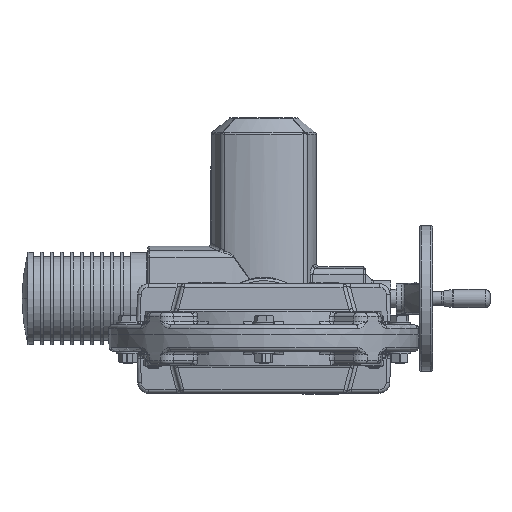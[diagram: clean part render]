
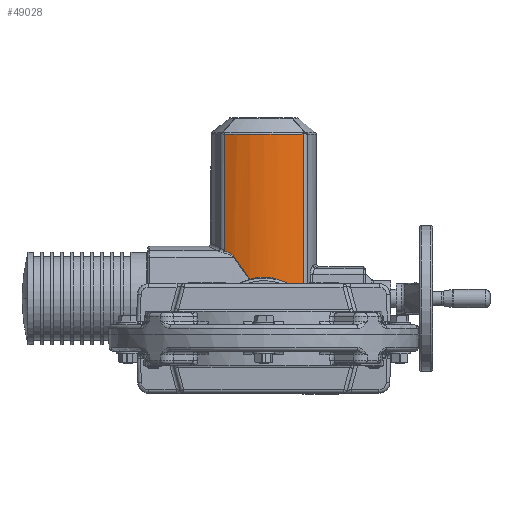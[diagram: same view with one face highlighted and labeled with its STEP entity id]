
A CAD part, front view. The second image highlights one B-rep face of the part: STEP entity #49028.
In plain terms, the highlighted cylindrical face has radius 100 mm (diameter 200 mm), a partial arc.
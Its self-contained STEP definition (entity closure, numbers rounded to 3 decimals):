
#443 = CARTESIAN_POINT ( 'NONE',  ( -41.052, 616.808, 91.582 ) ) ;
#2172 = B_SPLINE_CURVE_WITH_KNOTS ( 'NONE', 3,
 ( #109295, #119848, #57082, #130500, #67694, #4980, #78179, #15446 ),
 .UNSPECIFIED., .F., .F.,
 ( 4, 2, 2, 4 ),
 ( 0., 0.002, 0.003, 0.007 ),
 .UNSPECIFIED. ) ;
#3510 = CARTESIAN_POINT ( 'NONE',  ( -10.443, 608.52, 62.174 ) ) ;
#3958 = CARTESIAN_POINT ( 'NONE',  ( 20.562, 610.131, 58.699 ) ) ;
#4009 = EDGE_CURVE ( 'NONE', #121351, #111790, #43996, .T. ) ;
#4980 = CARTESIAN_POINT ( 'NONE',  ( 41.482, 617.005, 45.502 ) ) ;
#5095 = B_SPLINE_CURVE_WITH_KNOTS ( 'NONE', 3,
 ( #107835, #34572, #3510, #76733, #13939, #87258, #24505, #97738, #35004, #108269, #45509, #118831, #56065, #129468, #66622, #3958, #77168, #14391, #87723, #24951, #98178, #35457, #108726, #45955, #119260, #56509 ),
 .UNSPECIFIED., .F., .F.,
 ( 4, 2, 2, 2, 2, 2, 2, 2, 2, 2, 2, 2, 4 ),
 ( 0., 0.007, 0.011, 0.014, 0.021, 0.025, 0.028, 0.035, 0.039, 0.041, 0.042, 0.05, 0.057 ),
 .UNSPECIFIED. ) ;
#5405 = DIRECTION ( 'NONE',  ( 1., 0., 0. ) ) ;
#5708 = CARTESIAN_POINT ( 'NONE',  ( -14.967, 609.126, 60.881 ) ) ;
#8501 = VERTEX_POINT ( 'NONE', #42742 ) ;
#9285 = VERTEX_POINT ( 'NONE', #77283 ) ;
#10866 = CARTESIAN_POINT ( 'NONE',  ( -38.126, 615.548, 90.142 ) ) ;
#11309 = ORIENTED_EDGE ( 'NONE', *, *, #134201, .F. ) ;
#13939 = CARTESIAN_POINT ( 'NONE',  ( -5.794, 608.161, 62.927 ) ) ;
#14391 = CARTESIAN_POINT ( 'NONE',  ( 23.143, 610.713, 57.404 ) ) ;
#15446 = CARTESIAN_POINT ( 'NONE',  ( 43.041, 617.737, 44.194 ) ) ;
#16062 = CARTESIAN_POINT ( 'NONE',  ( 36.862, 615.041, 47.327 ) ) ;
#18704 = VERTEX_POINT ( 'NONE', #20866 ) ;
#20866 = CARTESIAN_POINT ( 'NONE',  ( 43.041, 617.737, 220.035 ) ) ;
#21394 = CARTESIAN_POINT ( 'NONE',  ( -35.292, 614.43, 88.385 ) ) ;
#24505 = CARTESIAN_POINT ( 'NONE',  ( -2.243, 608.018, 63.226 ) ) ;
#24951 = CARTESIAN_POINT ( 'NONE',  ( 24.662, 611.087, 56.561 ) ) ;
#27064 = CARTESIAN_POINT ( 'NONE',  ( 37.328, 615.227, 47.213 ) ) ;
#31929 = CARTESIAN_POINT ( 'NONE',  ( -33.565, 613.8, 86.957 ) ) ;
#33060 = EDGE_CURVE ( 'NONE', #8501, #115031, #51827, .T. ) ;
#34572 = CARTESIAN_POINT ( 'NONE',  ( -12.724, 608.787, 61.609 ) ) ;
#35004 = CARTESIAN_POINT ( 'NONE',  ( 3.673, 608.04, 63.181 ) ) ;
#35457 = CARTESIAN_POINT ( 'NONE',  ( 27.641, 611.874, 54.766 ) ) ;
#36745 = CARTESIAN_POINT ( 'NONE',  ( -32.064, 613.28, 85.242 ) ) ;
#37717 = EDGE_LOOP ( 'NONE', ( #101048, #49977, #57348, #53872, #55933, #79703, #11309, #96410 ) ) ;
#39148 = EDGE_CURVE ( 'NONE', #41668, #121351, #5095, .T. ) ;
#40342 = AXIS2_PLACEMENT_3D ( 'NONE', #130896, #68112, #5405 ) ;
#41204 = CIRCLE ( 'NONE', #40342, 100. ) ;
#41668 = VERTEX_POINT ( 'NONE', #114033 ) ;
#42391 = CARTESIAN_POINT ( 'NONE',  ( -32.398, 613.393, 85.723 ) ) ;
#42742 = CARTESIAN_POINT ( 'NONE',  ( -43.041, 617.737, 92.391 ) ) ;
#43996 = B_SPLINE_CURVE_WITH_KNOTS ( 'NONE', 3,
 ( #79249, #16062, #27064, #100316 ),
 .UNSPECIFIED., .F., .F.,
 ( 4, 4 ),
 ( 0.008, 0.009 ),
 .UNSPECIFIED. ) ;
#44054 = DIRECTION ( 'NONE',  ( -1., 0., 0. ) ) ;
#45509 = CARTESIAN_POINT ( 'NONE',  ( 8.354, 608.343, 62.546 ) ) ;
#45955 = CARTESIAN_POINT ( 'NONE',  ( 33.093, 613.616, 50.604 ) ) ;
#49028 = ADVANCED_FACE ( 'NONE', ( #102918 ), #93045, .T. ) ;
#49977 = ORIENTED_EDGE ( 'NONE', *, *, #33060, .T. ) ;
#51827 = B_SPLINE_CURVE_WITH_KNOTS ( 'NONE', 3,
 ( #125856, #115262, #443, #73664, #10866, #84131, #21394, #94608, #31929, #105212, #42391, #115715 ),
 .UNSPECIFIED., .F., .F.,
 ( 4, 2, 2, 2, 2, 4 ),
 ( 0., 0.003, 0.007, 0.01, 0.012, 0.014 ),
 .UNSPECIFIED. ) ;
#53872 = ORIENTED_EDGE ( 'NONE', *, *, #39148, .T. ) ;
#55435 = LINE ( 'NONE', #116966, #107889 ) ;
#55740 = CARTESIAN_POINT ( 'NONE',  ( -43.041, 617.737, 220.035 ) ) ;
#55933 = ORIENTED_EDGE ( 'NONE', *, *, #4009, .T. ) ;
#56048 = LINE ( 'NONE', #66881, #80630 ) ;
#56065 = CARTESIAN_POINT ( 'NONE',  ( 11.825, 608.695, 61.802 ) ) ;
#56509 = CARTESIAN_POINT ( 'NONE',  ( 36.396, 614.858, 47.439 ) ) ;
#56563 = VERTEX_POINT ( 'NONE', #55740 ) ;
#57082 = CARTESIAN_POINT ( 'NONE',  ( 38.764, 615.818, 46.82 ) ) ;
#57348 = ORIENTED_EDGE ( 'NONE', *, *, #134390, .T. ) ;
#64752 = DIRECTION ( 'NONE',  ( 0., 0., -1. ) ) ;
#66622 = CARTESIAN_POINT ( 'NONE',  ( 17.386, 609.499, 60.082 ) ) ;
#66881 = CARTESIAN_POINT ( 'NONE',  ( -43.041, 617.737, 237.75 ) ) ;
#67694 = CARTESIAN_POINT ( 'NONE',  ( 40.164, 616.419, 46.232 ) ) ;
#68112 = DIRECTION ( 'NONE',  ( 0., 0., -1. ) ) ;
#68418 = CARTESIAN_POINT ( 'NONE',  ( -20.733, 609.999, 69.042 ) ) ;
#73664 = CARTESIAN_POINT ( 'NONE',  ( -39.094, 615.952, 90.65 ) ) ;
#76733 = CARTESIAN_POINT ( 'NONE',  ( -6.964, 608.236, 62.77 ) ) ;
#77168 = CARTESIAN_POINT ( 'NONE',  ( 21.604, 610.356, 58.202 ) ) ;
#77283 = CARTESIAN_POINT ( 'NONE',  ( 43.041, 617.737, 44.194 ) ) ;
#77445 = DIRECTION ( 'NONE',  ( 0., 0., -1. ) ) ;
#78179 = CARTESIAN_POINT ( 'NONE',  ( 42.296, 617.381, 44.907 ) ) ;
#79249 = CARTESIAN_POINT ( 'NONE',  ( 36.396, 614.858, 47.439 ) ) ;
#79703 = ORIENTED_EDGE ( 'NONE', *, *, #113720, .T. ) ;
#80630 = VECTOR ( 'NONE', #77445, 1000. ) ;
#84131 = CARTESIAN_POINT ( 'NONE',  ( -36.228, 614.787, 89.011 ) ) ;
#85850 = DIRECTION ( 'NONE',  ( 0., 0., -1. ) ) ;
#86410 = CARTESIAN_POINT ( 'NONE',  ( 36.396, 614.858, 47.439 ) ) ;
#87258 = CARTESIAN_POINT ( 'NONE',  ( -3.436, 608.052, 63.155 ) ) ;
#87723 = CARTESIAN_POINT ( 'NONE',  ( 23.652, 610.836, 57.129 ) ) ;
#88120 = B_SPLINE_CURVE_WITH_KNOTS ( 'NONE', 3,
 ( #36745, #110019, #68418, #5708 ),
 .UNSPECIFIED., .F., .F.,
 ( 4, 4 ),
 ( 0., 0.03 ),
 .UNSPECIFIED. ) ;
#91753 = EDGE_CURVE ( 'NONE', #56563, #8501, #56048, .T. ) ;
#93045 = CYLINDRICAL_SURFACE ( 'NONE', #133833, 100. ) ;
#94608 = CARTESIAN_POINT ( 'NONE',  ( -33.985, 613.951, 87.329 ) ) ;
#96410 = ORIENTED_EDGE ( 'NONE', *, *, #128604, .T. ) ;
#97738 = CARTESIAN_POINT ( 'NONE',  ( 1.316, 607.981, 63.304 ) ) ;
#98178 = CARTESIAN_POINT ( 'NONE',  ( 25.164, 611.217, 56.268 ) ) ;
#100316 = CARTESIAN_POINT ( 'NONE',  ( 37.791, 615.416, 47.097 ) ) ;
#101048 = ORIENTED_EDGE ( 'NONE', *, *, #91753, .T. ) ;
#101597 = CARTESIAN_POINT ( 'NONE',  ( -32.064, 613.28, 85.242 ) ) ;
#102918 = FACE_OUTER_BOUND ( 'NONE', #37717, .T. ) ;
#105212 = CARTESIAN_POINT ( 'NONE',  ( -32.772, 613.521, 86.153 ) ) ;
#107835 = CARTESIAN_POINT ( 'NONE',  ( -14.967, 609.126, 60.881 ) ) ;
#107889 = VECTOR ( 'NONE', #85850, 1000. ) ;
#108269 = CARTESIAN_POINT ( 'NONE',  ( 7.186, 608.252, 62.737 ) ) ;
#108726 = CARTESIAN_POINT ( 'NONE',  ( 29.519, 612.438, 53.45 ) ) ;
#109295 = CARTESIAN_POINT ( 'NONE',  ( 37.791, 615.416, 47.097 ) ) ;
#110019 = CARTESIAN_POINT ( 'NONE',  ( -26.44, 611.376, 77.158 ) ) ;
#111790 = VERTEX_POINT ( 'NONE', #127632 ) ;
#113720 = EDGE_CURVE ( 'NONE', #111790, #9285, #2172, .T. ) ;
#114033 = CARTESIAN_POINT ( 'NONE',  ( -14.967, 609.126, 60.881 ) ) ;
#115031 = VERTEX_POINT ( 'NONE', #101597 ) ;
#115262 = CARTESIAN_POINT ( 'NONE',  ( -42.042, 617.26, 92.005 ) ) ;
#115715 = CARTESIAN_POINT ( 'NONE',  ( -32.064, 613.28, 85.242 ) ) ;
#116966 = CARTESIAN_POINT ( 'NONE',  ( 43.041, 617.737, 237.75 ) ) ;
#118831 = CARTESIAN_POINT ( 'NONE',  ( 10.68, 608.565, 62.077 ) ) ;
#119260 = CARTESIAN_POINT ( 'NONE',  ( 34.788, 614.23, 49.074 ) ) ;
#119848 = CARTESIAN_POINT ( 'NONE',  ( 38.283, 615.617, 46.974 ) ) ;
#121351 = VERTEX_POINT ( 'NONE', #86410 ) ;
#125856 = CARTESIAN_POINT ( 'NONE',  ( -43.041, 617.737, 92.391 ) ) ;
#127549 = CARTESIAN_POINT ( 'NONE',  ( 0., 708., 237.75 ) ) ;
#127632 = CARTESIAN_POINT ( 'NONE',  ( 37.791, 615.416, 47.097 ) ) ;
#128604 = EDGE_CURVE ( 'NONE', #18704, #56563, #41204, .T. ) ;
#129468 = CARTESIAN_POINT ( 'NONE',  ( 15.204, 609.137, 60.862 ) ) ;
#130500 = CARTESIAN_POINT ( 'NONE',  ( 39.706, 616.219, 46.448 ) ) ;
#130896 = CARTESIAN_POINT ( 'NONE',  ( 0., 708., 220.035 ) ) ;
#133833 = AXIS2_PLACEMENT_3D ( 'NONE', #127549, #64752, #44054 ) ;
#134201 = EDGE_CURVE ( 'NONE', #18704, #9285, #55435, .T. ) ;
#134390 = EDGE_CURVE ( 'NONE', #115031, #41668, #88120, .T. ) ;
